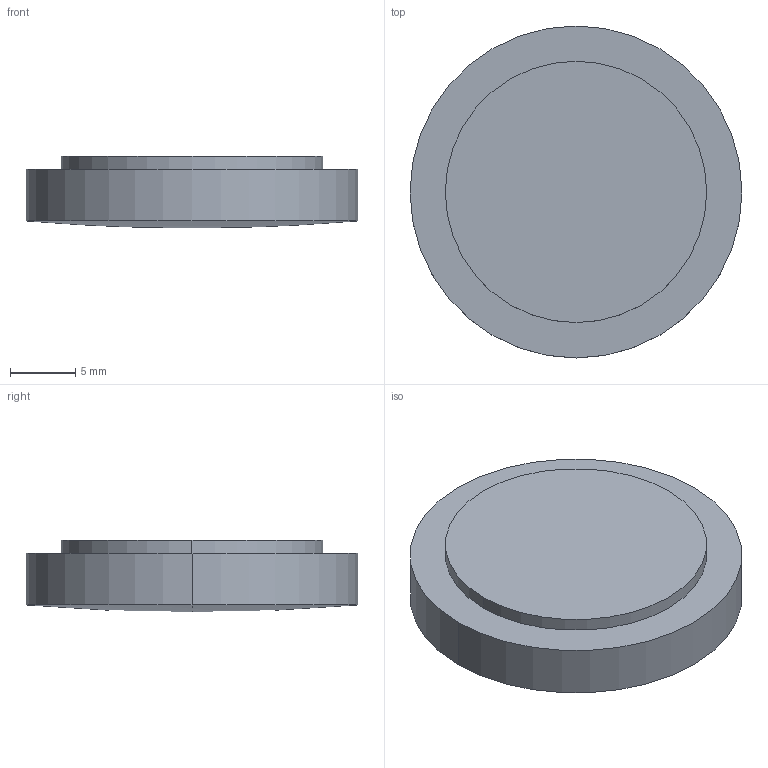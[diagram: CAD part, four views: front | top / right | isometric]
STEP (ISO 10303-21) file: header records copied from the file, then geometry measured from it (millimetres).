
FILE_DESCRIPTION(('STEP AP214'),'1');
FILE_NAME('LLF-25380.STEP','2020-03-09T17:41:26',(' '),(' '),'Spatial InterOp 3D',' ',' ');
FILE_SCHEMA(('AUTOMOTIVE_DESIGN { 1 0 10303 214 1 1 1 1 }'));
Length unit declared in the file: millimetre
Products named in the file (1): 1
Bounding box: 25.4 x 25.4 x 5.5 mm (x, y, z)
Volume: 2459.3 mm3; surface area: 2022 mm2
Topology: 2 solids, 2 shells, 9 faces, 16 edges, 9 vertices
Faces by surface type: cylinder 4, plane 3, sphere 2
Entity records: 229 total; most frequent: DIRECTION 46, CARTESIAN_POINT 34, ORIENTED_EDGE 28, AXIS2_PLACEMENT_3D 21, EDGE_CURVE 14, CIRCLE 10, ADVANCED_FACE 9, FACE_OUTER_BOUND 9
